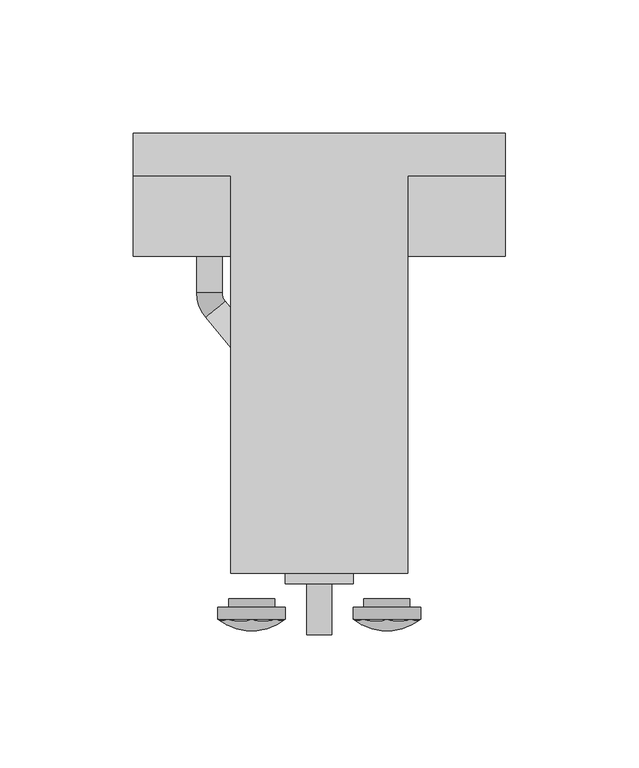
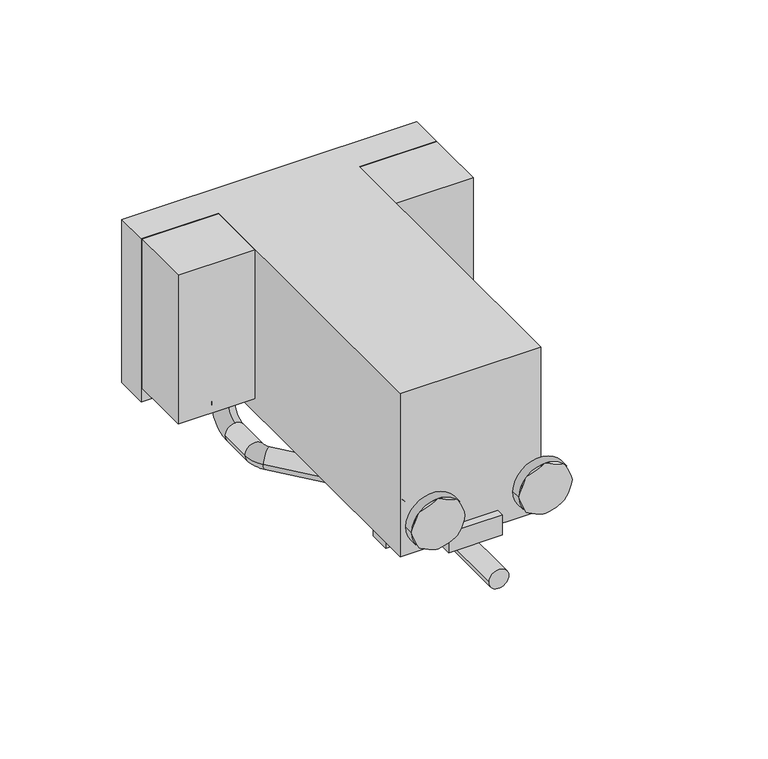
"""IFC4 building model written with IfcOpenShell, lengths in millimetres: proxy geometry, CLAMP ON PWR WITH DATA."""

from ifc_helpers import new_model, si_unit, point, frame, origin, place, context, project, spatial, polyline, circle_curve, ellipse_curve, trimmed, outline, extrude, faceted_brep, source, transform, mapped, element, save
from ifc_brep_helpers import plane_surface, cylinder_surface, revolved_surface, advanced_brep


def generic_models_309273ef(model_context):
    return source(origin(), model_context, "Body", "SolidModel", [
        advanced_brep(
        [(87.63, -131.699, 10.7005698), (87.63, -128.524, 10.7005698), (70.358, -128.524, 10.7005698), (70.358, -131.699, 10.7005698), (91.694, -136.271, 10.7005698), (91.694, -131.699, 10.7005698), (66.294, -131.699, 10.7005698), (66.294, -136.271, 10.7005698)],
        [
            (0, 1),
            (1, 2, circle_curve(frame((78.994, -128.524, 10.7005698), z_axis=(0.0, -1.0, 0.0), x_axis=(1.0, 0.0, 0.0)), 8.636)),
            (2, 3),
            (3, 0, circle_curve(frame((78.994, -131.699, 10.7005698), z_axis=(0.0, 1.0, 0.0), x_axis=(1.0, 0.0, 0.0)), 8.636)),
            (4, 5),
            (5, 6, circle_curve(frame((78.994, -131.699, 10.7005698), z_axis=(0.0, -1.0, 0.0), x_axis=(1.0, 0.0, 0.0)), 12.7)),
            (6, 7),
            (7, 4, circle_curve(frame((78.994, -136.271, 10.7005698), z_axis=(0.0, 1.0, 0.0), x_axis=(1.0, 0.0, 0.0)), 12.7)),
            (1, 2, circle_curve(frame((78.994, -128.524, 10.7005698), z_axis=(0.0, 1.0, 0.0), x_axis=(1.0, 0.0, 0.0)), 8.636)),
            (7, 4, circle_curve(frame((78.994, -136.271, 10.7005698), z_axis=(0.0, -1.0, 0.0), x_axis=(1.0, 0.0, 0.0)), 12.7)),
            (6, 5, circle_curve(frame((78.994, -131.699, 10.7005698), z_axis=(0.0, -1.0, 0.0), x_axis=(1.0, 0.0, 0.0)), 12.7)),
            (3, 0, circle_curve(frame((78.994, -131.699, 10.7005698), z_axis=(0.0, -1.0, 0.0), x_axis=(1.0, 0.0, 0.0)), 8.636)),
        ],
        [
            cylinder_surface(frame((78.994, -130.1115, 10.7005698), z_axis=(0.0, 1.0, 0.0), x_axis=(1.0, 0.0, 0.0)), 8.636),
            cylinder_surface(frame((78.994, -133.985, 10.7005698), z_axis=(0.0, 1.0, 0.0), x_axis=(1.0, 0.0, 0.0)), 12.7),
            plane_surface(frame((78.994, -128.524, 10.7005698), z_axis=(0.0, 1.0, 0.0), x_axis=(0.0, 0.0, 1.0))),
            revolved_surface(trimmed(ellipse_curve(frame((78.994, -120.3506429, 10.7005698), z_axis=(0.0, -1.0, 0.0), x_axis=(1.0, 0.0, 0.0)), 20.3653571, 20.3653571), [point((94.7920571, -120.3506429, -2.1512458))], [point((94.7920571, -120.3506429, 23.5523854))], True, "CARTESIAN"), (78.994, -120.3506429, 10.7005698), (0.0, 0.0, 1.0)),
            plane_surface(frame((87.63, -131.699, 10.7005698), z_axis=(0.0, 1.0, 0.0), x_axis=(0.0, 0.0, 1.0))),
        ],
        [
            (0, [[1, 2, 3, 4]]),
            (1, [[5, 6, 7, 8]]),
            (2, [[9, -2]]),
            (3, [[10, -8]]),
            (1, [[-5, -10, -7, 11]]),
            (4, [[-11, -6], [12, -4]]),
            (0, [[-1, -12, -3, -9]]),
        ],
    ),
        advanced_brep(
        [(138.43, -131.699, 10.7005698), (138.43, -128.524, 10.7005698), (121.158, -128.524, 10.7005698), (121.158, -131.699, 10.7005698), (142.494, -136.271, 10.7005698), (142.494, -131.699, 10.7005698), (117.094, -131.699, 10.7005698), (117.094, -136.271, 10.7005698)],
        [
            (0, 1),
            (1, 2, circle_curve(frame((129.794, -128.524, 10.7005698), z_axis=(0.0, -1.0, 0.0), x_axis=(1.0, 0.0, 0.0)), 8.636)),
            (2, 3),
            (3, 0, circle_curve(frame((129.794, -131.699, 10.7005698), z_axis=(0.0, 1.0, 0.0), x_axis=(1.0, 0.0, 0.0)), 8.636)),
            (4, 5),
            (5, 6, circle_curve(frame((129.794, -131.699, 10.7005698), z_axis=(0.0, -1.0, 0.0), x_axis=(1.0, 0.0, 0.0)), 12.7)),
            (6, 7),
            (7, 4, circle_curve(frame((129.794, -136.271, 10.7005698), z_axis=(0.0, 1.0, 0.0), x_axis=(1.0, 0.0, 0.0)), 12.7)),
            (1, 2, circle_curve(frame((129.794, -128.524, 10.7005698), z_axis=(0.0, 1.0, 0.0), x_axis=(1.0, 0.0, 0.0)), 8.636)),
            (7, 4, circle_curve(frame((129.794, -136.271, 10.7005698), z_axis=(0.0, -1.0, 0.0), x_axis=(1.0, 0.0, 0.0)), 12.7)),
            (6, 5, circle_curve(frame((129.794, -131.699, 10.7005698), z_axis=(0.0, -1.0, 0.0), x_axis=(1.0, 0.0, 0.0)), 12.7)),
            (3, 0, circle_curve(frame((129.794, -131.699, 10.7005698), z_axis=(0.0, -1.0, 0.0), x_axis=(1.0, 0.0, 0.0)), 8.636)),
        ],
        [
            cylinder_surface(frame((129.794, -130.1115, 10.7005698), z_axis=(0.0, 1.0, 0.0), x_axis=(1.0, 0.0, 0.0)), 8.636),
            cylinder_surface(frame((129.794, -133.985, 10.7005698), z_axis=(0.0, 1.0, 0.0), x_axis=(1.0, 0.0, 0.0)), 12.7),
            plane_surface(frame((129.794, -128.524, 10.7005698), z_axis=(0.0, 1.0, 0.0), x_axis=(0.0, 0.0, 1.0))),
            revolved_surface(trimmed(ellipse_curve(frame((129.794, -120.3506429, 10.7005698), z_axis=(0.0, -1.0, 0.0), x_axis=(1.0, 0.0, 0.0)), 20.3653571, 20.3653571), [point((145.5920571, -120.3506429, -2.1512458))], [point((145.5920571, -120.3506429, 23.5523854))], True, "CARTESIAN"), (129.794, -120.3506429, 10.7005698), (0.0, 0.0, 1.0)),
            plane_surface(frame((138.43, -131.699, 10.7005698), z_axis=(0.0, 1.0, 0.0), x_axis=(0.0, 0.0, 1.0))),
        ],
        [
            (0, [[1, 2, 3, 4]]),
            (1, [[5, 6, 7, 8]]),
            (2, [[9, -2]]),
            (3, [[10, -8]]),
            (1, [[-5, -10, -7, 11]]),
            (4, [[-11, -6], [12, -4]]),
            (0, [[-1, -12, -3, -9]]),
        ],
    ),
        extrude(outline(polyline([(71.12, -118.872), (71.12, 30.226), (34.544, 30.226), (34.544, 46.228), (174.244, 46.228), (174.244, 30.226), (137.668, 30.226), (137.668, -118.872), (71.12, -118.872)])), frame((0.0, 0.0, -13.6834302), z_axis=(0.0, 0.0, 1.0), x_axis=(1.0, 0.0, 0.0)), (0.0, 0.0, 1.0), 81.788),
        faceted_brep([(117.094, -96.774, -16.4774302), (91.694, -96.774, -16.4774302), (91.694, -96.774, -3.0154302), (85.598, -96.774, -3.0154302), (85.598, -96.774, -16.7314302), (71.12, -96.774, -16.7314302), (71.12, -96.774, 18.3205698), (137.668, -96.774, 18.3205698), (137.668, -96.774, -16.7314302), (123.19, -96.774, -16.7314302), (123.19, -96.774, -3.0154302), (117.094, -96.774, -3.0154302), (91.694, -122.936, -16.4774302), (91.694, -122.936, -6.3174302), (91.694, -106.934, -6.3174302), (91.694, -106.934, -3.0154302), (117.094, -122.936, -16.4774302), (71.12, -106.934, 18.3205698), (137.668, -106.934, 18.3205698), (71.12, -106.934, -16.7314302), (137.668, -106.934, -16.7314302), (85.598, -106.934, -3.0154302), (117.094, -106.934, -6.3174302), (117.094, -106.934, -3.0154302), (123.19, -106.934, -3.0154302), (123.19, -106.934, -16.7314302), (85.598, -106.934, -16.7314302), (117.094, -122.936, -6.3174302)], [[[0, 1, 2, 3, 4, 5, 6, 7, 8, 9, 10, 11]], [[2, 1, 12, 13, 14, 15]], [[1, 0, 16, 12]], [[7, 6, 17, 18]], [[6, 5, 19, 17]], [[7, 18, 20, 8]], [[21, 15, 14, 22, 23, 24, 25, 20, 18, 17, 19, 26]], [[15, 21, 3, 2]], [[23, 22, 27, 16, 0, 11]], [[23, 11, 10, 24]], [[24, 10, 9, 25]], [[21, 26, 4, 3]], [[22, 14, 13, 27]], [[26, 19, 5, 4]], [[25, 9, 8, 20]], [[27, 13, 12, 16]]]),
        advanced_brep(
        [(67.8815, 12.7, -6.4444302), (67.8815, 12.7, -12.4769302), (63.119, 17.4625, -12.4769302), (58.3565, 12.7, -12.4769302), (58.3565, 12.7, -6.4444302), (63.119, 2.8575, -27.0819302), (58.3565, 2.8575, -22.3194302), (63.119, 2.8575, -17.5569302), (63.119, 7.9375, -12.4769302), (67.8815, 2.8575, -22.3194302), (67.8815, -13.5670739, -22.3194302), (58.3565, -13.5670739, -22.3194302), (61.690719, -22.8555356, -22.3194302), (69.0412284, -16.7978432, -22.3194302), (105.822281, -61.4286122, -22.3194302), (98.4717716, -67.4863046, -22.3194302), (109.1565, -70.7170739, -22.3194302), (99.6315, -70.7170739, -22.3194302), (109.1565, -142.021773, -22.3194302), (99.6315, -142.021773, -22.3194302), (174.244, 43.18, -6.4444302), (174.244, 43.18, 68.1045698), (174.244, 0.0, 68.1045698), (174.244, 0.0, -6.4444302), (34.544, 43.18, -6.4444302), (34.544, 43.18, 68.1045698), (34.544, 0.0, -6.4444302), (34.544, 0.0, 68.1045698)],
        [
            (0, 1),
            (1, 2, circle_curve(frame((63.119, 12.7, -12.4769302), z_axis=(0.0, 0.0, 1.0), x_axis=(1.0, 0.0, 0.0)), 4.7625)),
            (2, 3, circle_curve(frame((63.119, 12.7, -12.4769302), z_axis=(0.0, 0.0, 1.0), x_axis=(1.0, 0.0, 0.0)), 4.7625)),
            (3, 4),
            (4, 0, circle_curve(frame((63.119, 12.7, -6.4444302), z_axis=(0.0, 0.0, -1.0), x_axis=(1.0, 0.0, 0.0)), 4.7625)),
            (2, 5, circle_curve(frame((63.119, 2.8575, -12.4769302), z_axis=(-1.0, 0.0, 0.0), x_axis=(0.0, 1.0, 0.0)), 14.605)),
            (5, 6, circle_curve(frame((63.119, 2.8575, -22.3194302), z_axis=(0.0, 1.0, 0.0), x_axis=(0.0, 0.0, -1.0)), 4.7625)),
            (6, 7, circle_curve(frame((63.119, 2.8575, -22.3194302), z_axis=(0.0, 1.0, 0.0), x_axis=(0.0, 0.0, -1.0)), 4.7625)),
            (7, 8, circle_curve(frame((63.119, 2.8575, -12.4769302), z_axis=(1.0, 0.0, 0.0), x_axis=(0.0, 1.0, 0.0)), 5.08)),
            (8, 3, circle_curve(frame((63.119, 12.7, -12.4769302), z_axis=(0.0, 0.0, -1.0), x_axis=(0.0, 1.0, 0.0)), 4.7625)),
            (9, 10),
            (10, 11, circle_curve(frame((63.119, -13.5670739, -22.3194302), z_axis=(0.0, 1.0, 0.0), x_axis=(1.0, 0.0, 0.0)), 4.7625)),
            (11, 6),
            (5, 9, circle_curve(frame((63.119, 2.8575, -22.3194302), z_axis=(0.0, -1.0, 0.0), x_axis=(1.0, 0.0, 0.0)), 4.7625)),
            (11, 12, circle_curve(frame((72.9615, -13.5670739, -22.3194302), z_axis=(0.0, 0.0, 1.0), x_axis=(-1.0, 0.0, 0.0)), 14.605)),
            (12, 13, circle_curve(frame((65.3659737, -19.8266894, -22.3194302), z_axis=(-0.6359782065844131, 0.7717070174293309, 0.0), x_axis=(-0.7717070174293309, -0.6359782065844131, 0.0)), 4.7625)),
            (13, 10, circle_curve(frame((72.9615, -13.5670739, -22.3194302), z_axis=(0.0, 0.0, -1.0), x_axis=(-1.0, 0.0, 0.0)), 5.08)),
            (10, 11, circle_curve(frame((63.119, -13.5670739, -22.3194302), z_axis=(0.0, -1.0, 0.0), x_axis=(-1.0, 0.0, 0.0)), 4.7625)),
            (13, 14),
            (14, 15, circle_curve(frame((102.1470263, -64.4574584, -22.3194302), z_axis=(-0.6359782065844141, 0.7717070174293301, 0.0), x_axis=(0.7717070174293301, 0.6359782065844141, 0.0)), 4.7625)),
            (15, 12),
            (12, 13, circle_curve(frame((65.3659737, -19.8266894, -22.3194302), z_axis=(0.6359782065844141, -0.7717070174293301, 0.0), x_axis=(0.7717070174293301, 0.6359782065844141, 0.0)), 4.7625)),
            (14, 16, circle_curve(frame((94.5515, -70.7170739, -22.3194302), z_axis=(0.0, 0.0, -1.0), x_axis=(0.7717070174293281, 0.6359782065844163, 0.0)), 14.605)),
            (16, 17, circle_curve(frame((104.394, -70.7170739, -22.3194302), z_axis=(0.0, 1.0, 0.0), x_axis=(1.0, 0.0, 0.0)), 4.7625)),
            (17, 15, circle_curve(frame((94.5515, -70.7170739, -22.3194302), z_axis=(0.0, 0.0, 1.0), x_axis=(0.7717070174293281, 0.6359782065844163, 0.0)), 5.08)),
            (16, 18),
            (18, 19, circle_curve(frame((104.394, -142.021773, -22.3194302), z_axis=(0.0, 1.0, 0.0), x_axis=(1.0, 0.0, 0.0)), 4.7625)),
            (19, 17),
            (20, 21),
            (21, 22),
            (22, 23),
            (23, 20),
            (20, 24),
            (24, 25),
            (25, 21),
            (24, 26),
            (26, 27),
            (27, 25),
            (23, 26),
            (4, 0, circle_curve(frame((63.119, 12.7, -6.4444302), z_axis=(0.0, 0.0, 1.0), x_axis=(1.0, 0.0, 0.0)), 4.7625)),
            (27, 22),
            (16, 17, circle_curve(frame((104.394, -70.7170739, -22.3194302), z_axis=(0.0, -1.0, 0.0), x_axis=(1.0, 0.0, 0.0)), 4.7625)),
            (19, 18, circle_curve(frame((104.394, -142.021773, -22.3194302), z_axis=(0.0, 1.0, 0.0), x_axis=(1.0, 0.0, 0.0)), 4.7625)),
            (14, 15, circle_curve(frame((102.1470263, -64.4574584, -22.3194302), z_axis=(0.6359782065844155, -0.7717070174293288, 0.0), x_axis=(0.7717070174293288, 0.6359782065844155, 0.0)), 4.7625)),
            (9, 7, circle_curve(frame((63.119, 2.8575, -22.3194302), z_axis=(0.0, -1.0, 0.0), x_axis=(1.0, 0.0, 0.0)), 4.7625)),
            (1, 8, circle_curve(frame((63.119, 12.7, -12.4769302), z_axis=(0.0, 0.0, -1.0), x_axis=(0.0, 1.0, 0.0)), 4.7625)),
        ],
        [
            cylinder_surface(frame((63.119, 12.7, -6.4444302), z_axis=(0.0, 0.0, -1.0), x_axis=(1.0, 0.0, 0.0)), 4.7625),
            revolved_surface(trimmed(ellipse_curve(frame((63.119, 12.7, -12.4769302), z_axis=(0.0, 0.0, 1.0), x_axis=(0.0, 1.0, 0.0)), 4.7625, 4.7625), [point((63.119, 17.4625, -12.4769302))], [point((63.119, 7.9375, -12.4769302))], True, "CARTESIAN"), (63.119, 2.8575, -12.4769302), (-1.0, 0.0, 0.0)),
            cylinder_surface(frame((63.119, 2.8575, -22.3194302), z_axis=(0.0, -1.0, 0.0), x_axis=(1.0, 0.0, 0.0)), 4.7625),
            revolved_surface(trimmed(ellipse_curve(frame((63.119, -13.5670739, -22.3194302), z_axis=(0.0, 1.0, 0.0), x_axis=(-1.0, 0.0, 0.0)), 4.7625, 4.7625), [point((58.3565, -13.5670739, -22.3194302))], [point((67.8815, -13.5670739, -22.3194302))], True, "CARTESIAN"), (72.9615, -13.5670739, -22.3194302), (0.0, 0.0, 1.0)),
            cylinder_surface(frame((65.3659737, -19.8266894, -22.3194302), z_axis=(0.6359782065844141, -0.7717070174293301, 0.0), x_axis=(0.7717070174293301, 0.6359782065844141, 0.0)), 4.7625),
            revolved_surface(trimmed(ellipse_curve(frame((102.1470263, -64.4574584, -22.3194302), z_axis=(-0.6359782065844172, 0.7717070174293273, 0.0), x_axis=(0.7717070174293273, 0.6359782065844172, 0.0)), 4.7625, 4.7625), [point((105.822281, -61.4286122, -22.3194302))], [point((98.4717716, -67.4863046, -22.3194302))], True, "CARTESIAN"), (94.5515, -70.7170739, -22.3194302), (0.0, 0.0, -1.0)),
            cylinder_surface(frame((104.394, -70.7170739, -22.3194302), z_axis=(0.0, -1.0, 0.0), x_axis=(1.0, 0.0, 0.0)), 4.7625),
            plane_surface(frame((174.244, 0.0, -3.2694302), z_axis=(1.0, 0.0, 0.0), x_axis=(0.0, 1.0, 0.0))),
            plane_surface(frame((174.244, 43.18, -3.2694302), z_axis=(0.0, 1.0, 0.0), x_axis=(-1.0, 0.0, 0.0))),
            plane_surface(frame((34.544, 43.18, -3.2694302), z_axis=(-1.0, 0.0, 0.0), x_axis=(0.0, -1.0, 0.0))),
            plane_surface(frame((63.119, 7.76056, -6.4444302), z_axis=(0.0, 0.0, -1.0), x_axis=(1.0, 0.0, 0.0))),
            plane_surface(frame((104.394, 21.59, 68.1045698), z_axis=(0.0, 0.0, 1.0), x_axis=(1.0, 0.0, 0.0))),
            plane_surface(frame((34.544, 0.0, -3.2694302), z_axis=(0.0, -1.0, 0.0), x_axis=(1.0, 0.0, 0.0))),
            revolved_surface(trimmed(ellipse_curve(frame((102.1470263, -64.4574584, -22.3194302), z_axis=(-0.6359782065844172, 0.7717070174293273, 0.0), x_axis=(0.7717070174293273, 0.6359782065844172, 0.0)), 4.7625, 4.7625), [point((98.4717716, -67.4863046, -22.3194302))], [point((105.822281, -61.4286122, -22.3194302))], True, "CARTESIAN"), (94.5515, -70.7170739, -22.3194302), (0.0, 0.0, -1.0)),
            revolved_surface(trimmed(ellipse_curve(frame((63.119, -13.5670739, -22.3194302), z_axis=(0.0, 1.0, 0.0), x_axis=(-1.0, 0.0, 0.0)), 4.7625, 4.7625), [point((67.8815, -13.5670739, -22.3194302))], [point((58.3565, -13.5670739, -22.3194302))], True, "CARTESIAN"), (72.9615, -13.5670739, -22.3194302), (0.0, 0.0, 1.0)),
            revolved_surface(trimmed(ellipse_curve(frame((63.119, 12.7, -12.4769302), z_axis=(0.0, 0.0, 1.0), x_axis=(0.0, 1.0, 0.0)), 4.7625, 4.7625), [point((63.119, 7.9375, -12.4769302))], [point((63.119, 17.4625, -12.4769302))], True, "CARTESIAN"), (63.119, 2.8575, -12.4769302), (-1.0, 0.0, 0.0)),
            plane_surface(frame((104.394, -142.021773, -22.3194302), z_axis=(0.0, -1.0, 0.0), x_axis=(1.0, 0.0, 0.0))),
        ],
        [
            (0, [[1, 2, 3, 4, 5]]),
            (1, [[6, 7, 8, 9, 10, -3]]),
            (2, [[11, 12, 13, -7, 14]]),
            (3, [[15, 16, 17, 18]]),
            (4, [[19, 20, 21, 22]]),
            (5, [[23, 24, 25, -20]]),
            (6, [[26, 27, 28, -24]]),
            (7, [[29, 30, 31, 32]]),
            (8, [[-29, 33, 34, 35]]),
            (9, [[-34, 36, 37, 38]]),
            (10, [[-32, 39, -36, -33], [40, -5]]),
            (11, [[-38, 41, -30, -35]]),
            (12, [[-37, -39, -31, -41]]),
            (6, [[-26, 42, -28, 43]]),
            (13, [[-23, 44, -25, -42]]),
            (4, [[-19, -16, -21, -44]]),
            (14, [[-15, -12, -17, -22]]),
            (2, [[-11, 45, -8, -13, -18]]),
            (15, [[-6, -2, 46, -9, -45, -14]]),
            (0, [[-1, -40, -4, -10, -46]]),
            (16, [[-27, -43]]),
        ],
    ),
    ])


if __name__ == "__main__":
    model = new_model("IFC4")
    model_context = context("Model", 3, world=origin())
    ifc_project = project(units=[si_unit("LENGTHUNIT", "METRE", prefix="MILLI")], contexts=[model_context])
    site = spatial("IfcSite", under=ifc_project)
    building = spatial("IfcBuilding", under=site)
    placement = place(None, origin())
    generic_models_shape = generic_models_309273ef(model_context)
    element("IfcBuildingElementProxy", 1, Name="CLAMP ON PWR WITH DATA", ObjectType="CLAMP ON PWR WITH DATA", at=placement, inside=building, context=model_context, shape_type="MappedRepresentation", body=[
        mapped(generic_models_shape, transform((0.0, 0.0, 0.0), x_axis=(1.0, 0.0, 0.0), y_axis=(0.0, 1.0, 0.0), z_axis=(0.0, 0.0, 1.0))),
    ])
    save(model, "model.ifc")
